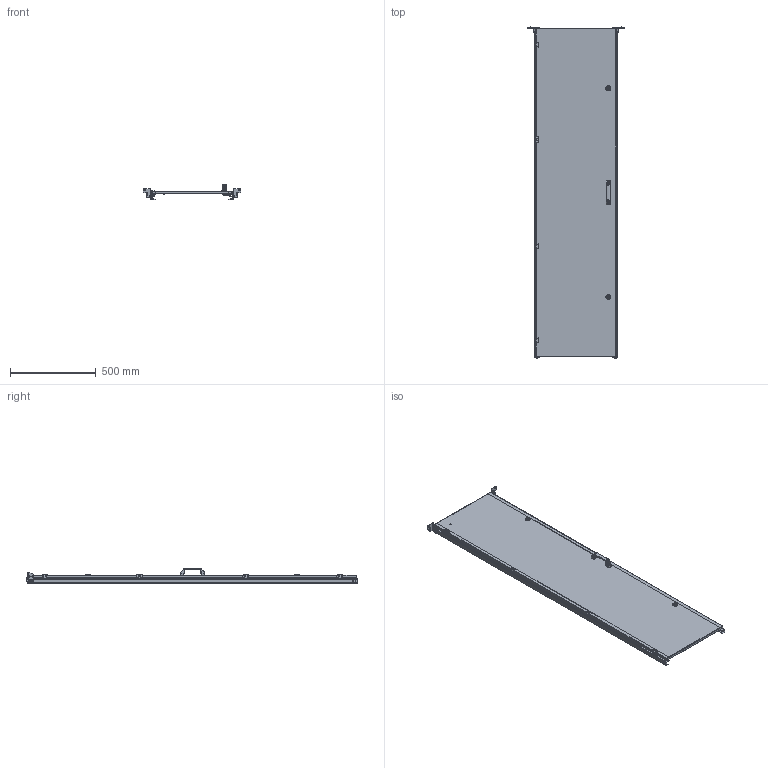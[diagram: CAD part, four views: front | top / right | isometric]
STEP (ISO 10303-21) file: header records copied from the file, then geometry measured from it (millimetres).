
FILE_DESCRIPTION (( 'STEP AP203' ), '1' );
FILE_NAME ('ID 200.60 ﾑﾁ ﾄ粢 粹澵.STEP', '2025-01-23T11:58:11', ( '' ), ( '' ), 'SwSTEP 2.0', 'SolidWorks 2022', '' );
FILE_SCHEMA (( 'CONFIG_CONTROL_DESIGN' ));
Length unit declared in the file: millimetre
Products named in the file (5): MP 01.001-01 Держатель монтажной панели верхний; Винт специальный самонарезающий оц. 4,8x11_Винт специальный самонарезающий оц. 4,8x11; ID 200.60 СБ Дверь внутренняя; ID 180.80 Дверь внутренняя_ID 200.60 Дверь внутренняя; MP 01.001 Держатель монтажной панели верхний_По умолчаниюSM-FLAT-PATTERN
Assembly tree (7 placements, depth 2):
  ID 200.60 СБ Дверь внутренняя
    ID 180.80 Дверь внутренняя_ID 200.60 Дверь внутренняя
    MP 01.001 Держатель монтажной панели верхний_По умолчаниюSM-FLAT-PATTERN
    MP 01.001-01 Держатель монтажной панели верхний
    Винт специальный самонарезающий оц. 4,8x11_Винт специальный самонарезающий оц. 4,8x11  x4
Bounding box: 570 x 1939.1 x 88.74 mm (x, y, z)
Volume: 2094193.5 mm3; surface area: 2664847.5 mm2
Topology: 40 solids, 40 shells, 1940 faces, 5026 edges, 3176 vertices
Faces by surface type: plane 886, cylinder 566, cone 262, bspline 108, sphere 88, torus 30
Entity records: 57874 total; most frequent: CARTESIAN_POINT 14827, ORIENTED_EDGE 9126, DIRECTION 8636, EDGE_CURVE 4563, AXIS2_PLACEMENT_3D 3153, VERTEX_POINT 2888, LINE 2330, VECTOR 2330
